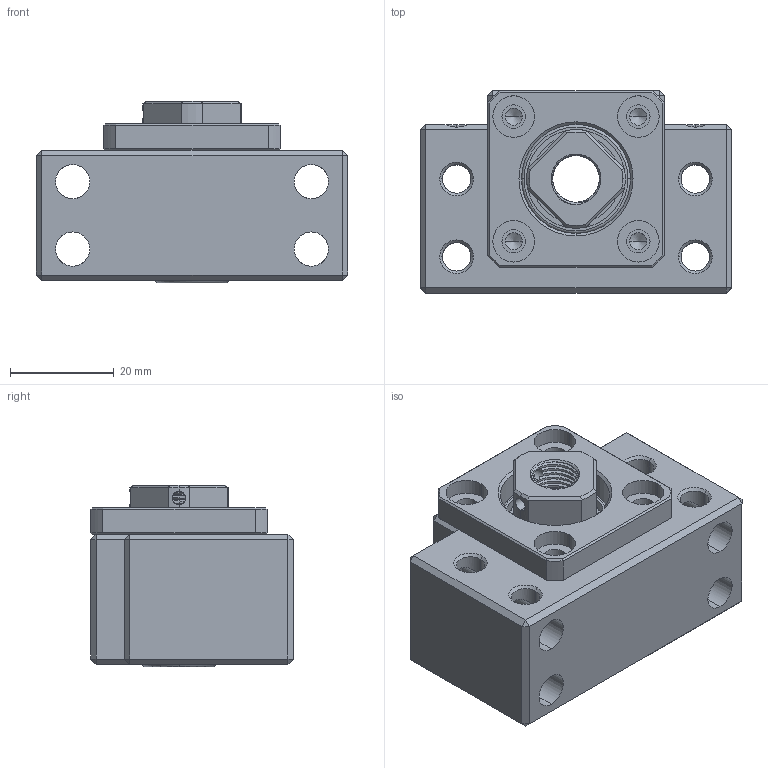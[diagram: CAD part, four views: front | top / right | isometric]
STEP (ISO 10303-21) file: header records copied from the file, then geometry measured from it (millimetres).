
FILE_DESCRIPTION (( 'STEP AP214' ), '1' );
FILE_NAME ('2.4005 Kuularuuvin tukilaakeri BK10.STEP', '2024-05-06T12:56:26', ( '' ), ( '' ), 'SwSTEP 2.0', 'SolidWorks 2024', '' );
FILE_SCHEMA (( 'AUTOMOTIVE_DESIGN' ));
Length unit declared in the file: millimetre
Products named in the file (1): 2.4005 Kuularuuvin tukilaakeri BK10
Bounding box: 60 x 39 x 35 mm (x, y, z)
Volume: 45816.7 mm3; surface area: 26954.2 mm2
Topology: 29 solids, 29 shells, 495 faces, 1253 edges, 768 vertices
Faces by surface type: cylinder 157, torus 106, plane 103, cone 78, sphere 36, bspline 15
Entity records: 23649 total; most frequent: CARTESIAN_POINT 8101, DIRECTION 2535, ORIENTED_EDGE 2310, EDGE_CURVE 1155, AXIS2_PLACEMENT_3D 1087, VERTEX_POINT 714, CIRCLE 606, EDGE_LOOP 557
